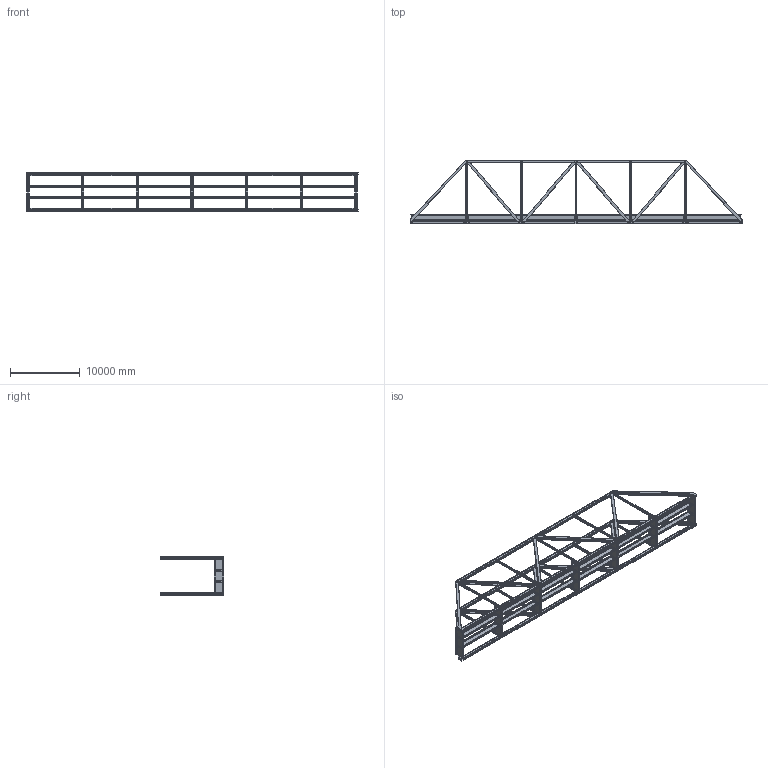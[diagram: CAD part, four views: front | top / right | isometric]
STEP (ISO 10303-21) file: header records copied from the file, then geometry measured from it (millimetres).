
FILE_DESCRIPTION(/* description */ (''),/* implementation_level */ '2;1');
FILE_NAME(/* name */ 'D:\SolidWorks\Through Truss\Through Truss_Full Assembly.stp',/* time_stamp */ '2018-02-06T14:15:30+06:00',/* author */ ('Shaleej'),/* organization */ (''),/* preprocessor_version */ 'ST-DEVELOPER v16.13',/* originating_system */ 'Autodesk Inventor 2018',/* authorisation */ '');
FILE_SCHEMA (('AUTOMOTIVE_DESIGN { 1 0 10303 214 3 1 1 }'));
Length unit declared in the file: inch
Products named in the file (85): Through Truss_Full Assembly; L2L3; C - Channel-02; Top Plate; L2L3_1; C - Channel-02_1; Top Plate_1; L2L3_2; C - Channel-02_2; Top Plate_2; L2L3_3; C - Channel-02_3; Top Plate_3; L2L3_4; C - Channel-02_4; Top Plate_4; L2L3_5; C - Channel-02_5; Top Plate_5; Connecting Plate For Riveting; Connecting Plate For Riveting_1; Connecting Plate For Riveting_2; Connecting Plate For Riveting_3; L2L3_6; C - Channel-02_6; Top Plate_6; L2L3_7; C - Channel-02_7; Top Plate_7; L2L3_8; C - Channel-02_8; Top Plate_8; Interior Floor Beam; Web_FB_Interior; Top Flange Angle_FB_Interior; L0U1 Plate_Mirrored; L0U1_Connecting Plate; L0U1_Connecting Plate_Mirrored; L2U1_C Channel; L2U1_C Channel_Mirrored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
Assembly tree (251 placements, depth 3):
  Through Truss_Full Assembly
    Interior Floor Beam  x5
      Web_FB_Interior
      Top Flange Angle_FB_Interior
      Top Flange Angle_FB_End-01
    L1U1  x12
      Web L1U1
      Angle_L1U1
    L2L3
      C - Channel-02_12
      C - Channel-02
      Top Plate
      Top Plate_12
    L2L3_1
      C - Channel-02_12
      C - Channel-02_1
      Top Plate_1
      Top Plate_12
    L2L3_2
      C - Channel-02_12
      C - Channel-02_2
      Top Plate_2
      Top Plate_12
    L2L3_12  x8
      C - Channel-02_12
      C - Channel-02_13
      Top Plate_12
    L0U1 Plate_Mirrored  x2
    L0U1_Connecting Plate  x2
    L0U1_Connecting Plate_Mirrored  x2
    L2U1_C Channel  x2
    L2U1_C Channel_Mirrored  x2
    L2U3 C channel  x2
    L2U3 C channel_Mirrored  x2
    Floor Beam End  x2
      Web_FB_end-01
      Top Flange Angle_FB_End-01
    Rail Girder  x12
      Web RG
      Angle 6 X 6
      Plate For Riveting-01
    Cover Plate_Bearing End  x2
    Cover Plate_End Raker End  x2
    L0U1 Plate  x2
    Cover Plate Top Cords  x4
    L2L3_3
      C - Channel-02_12
      C - Channel-02_3
      Top Plate_3
      Top Plate_12
    L2L3_4
      C - Channel-02_12
      C - Channel-02_4
      Top Plate_4
      Top Plate_12
    L2L3_5
      C - Channel-02_12
      C - Channel-02_5
      Top Plate_5
      Top Plate_12
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Bounding box: 47560.99 x 9150.35 x 5480.05 mm (x, y, z)
Volume: 9625458341.8 mm3; surface area: 1819116277.4 mm2
Topology: 407 solids, 407 shells, 5313 faces, 14940 edges, 10441 vertices
Faces by surface type: plane 2746, cylinder 2567
Full cylindrical faces by diameter (mm): 6.35 x899, 25.4 x960
Entity records: 51089 total; most frequent: DIRECTION 8547, CARTESIAN_POINT 7647, ORIENTED_EDGE 6162, EDGE_LOOP 4225, AXIS2_PLACEMENT_3D 3670, EDGE_CURVE 3081, FACE_BOUND 2757, VERTEX_POINT 2666
